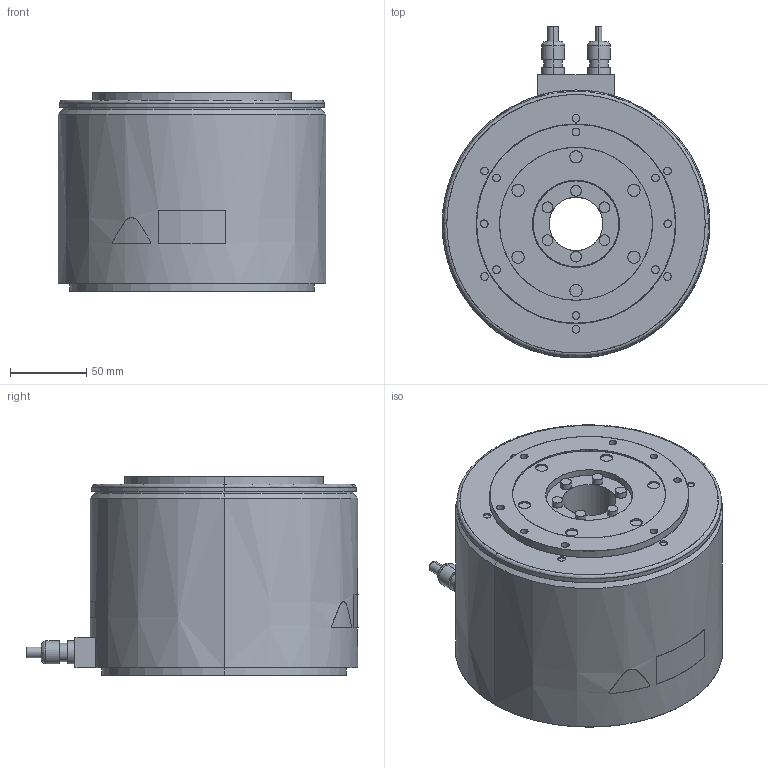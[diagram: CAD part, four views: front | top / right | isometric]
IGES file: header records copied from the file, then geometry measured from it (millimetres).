
Start section: SolidWorks IGES file using analytic representation for surfaces
Bounding box: 175 x 217.1 x 130 mm (x, y, z)
Surface area: 140225.5 mm2 (no closed solid volume)
Topology: 0 solids, 0 shells, 192 faces, 4651 edges, 4651 vertices
Faces by surface type: revolution 114, bspline 78
